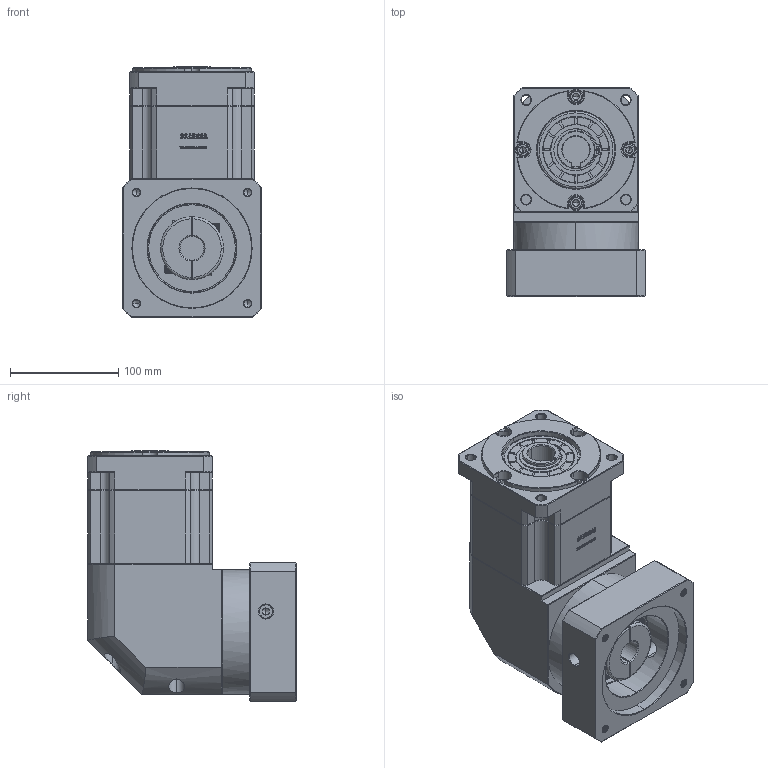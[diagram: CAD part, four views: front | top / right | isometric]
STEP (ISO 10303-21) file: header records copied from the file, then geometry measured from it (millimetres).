
FILE_DESCRIPTION (( 'STEP AP214' ), '1' );
FILE_NAME ('ZBR115A-K25-L2-22-110-145-M8.step', '2023-03-03T05:07:13', ( '' ), ( 'Microsoft' ), 'SwSTEP 2.0', 'SolidWorks 2016', '' );
FILE_SCHEMA (( 'AUTOMOTIVE_DESIGN' ));
Length unit declared in the file: millimetre
Products named in the file (1): ZBR115A-K25-L2-22-110-145-M8
Bounding box: 128 x 192.4 x 231.5 mm (x, y, z)
Volume: 3326055.3 mm3; surface area: 264286.9 mm2
Topology: 6 solids, 6 shells, 2927 faces, 7770 edges, 4989 vertices
Faces by surface type: plane 1552, bspline 598, cylinder 406, cone 363, torus 8
Entity records: 156432 total; most frequent: CARTESIAN_POINT 56178, ORIENTED_EDGE 15484, DIRECTION 11754, EDGE_CURVE 7742, LINE 5254, VECTOR 5254, VERTEX_POINT 4989, AXIS2_PLACEMENT_3D 3250
